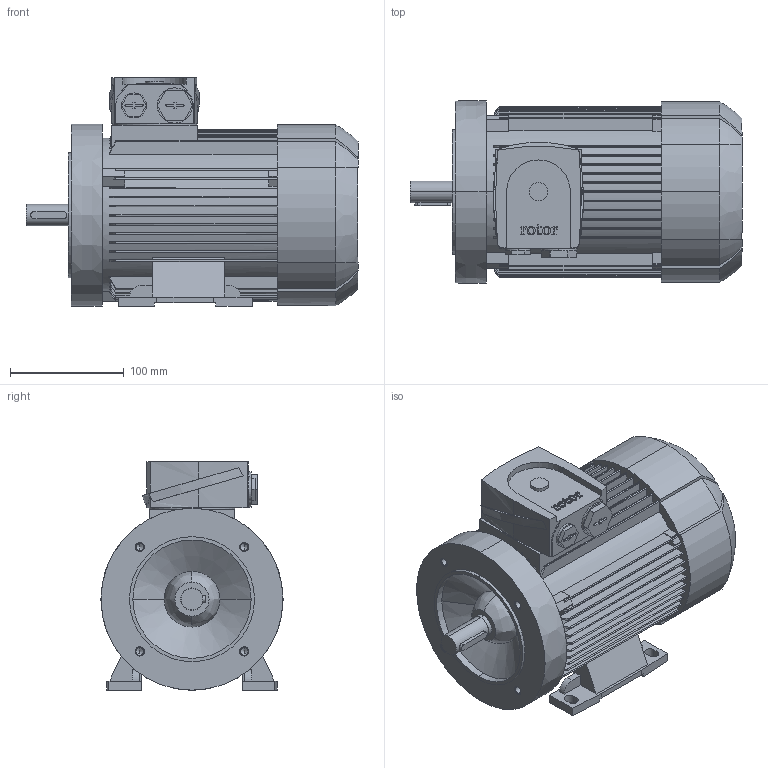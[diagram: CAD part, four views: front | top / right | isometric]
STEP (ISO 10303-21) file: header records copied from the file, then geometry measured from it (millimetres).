
FILE_DESCRIPTION (( 'STEP AP214' ), '1' );
FILE_NAME ('6RN80M04E32 IM2101 FT130.STEP', '2014-09-22T09:51:53', ( 'rbc_ict' ), ( 'REGAL' ), 'SwSTEP 2.0', 'SolidWorks 2012', '' );
FILE_SCHEMA (( 'AUTOMOTIVE_DESIGN' ));
Length unit declared in the file: millimetre
Products named in the file (1): 6RN80M04E32 IM2101 FT130
Bounding box: 292 x 160.39 x 201.2 mm (x, y, z)
Volume: 4549945 mm3; surface area: 314862.1 mm2
Topology: 1 solids, 1 shells, 621 faces, 1756 edges, 1157 vertices
Faces by surface type: plane 351, cylinder 143, bspline 104, cone 23
Entity records: 23173 total; most frequent: CARTESIAN_POINT 7516, ORIENTED_EDGE 3496, DIRECTION 2973, EDGE_CURVE 1748, VERTEX_POINT 1157, LINE 1049, VECTOR 1049, AXIS2_PLACEMENT_3D 962
